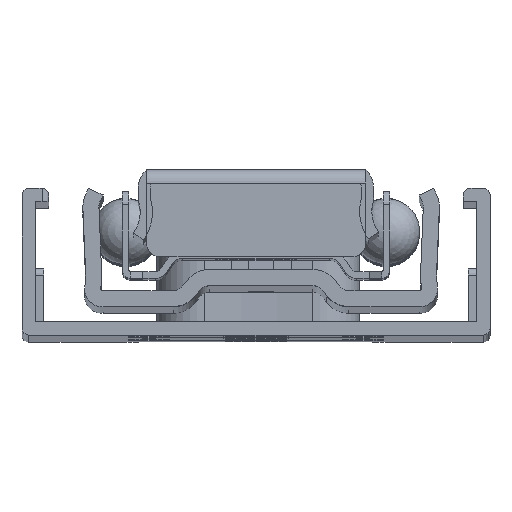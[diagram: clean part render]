
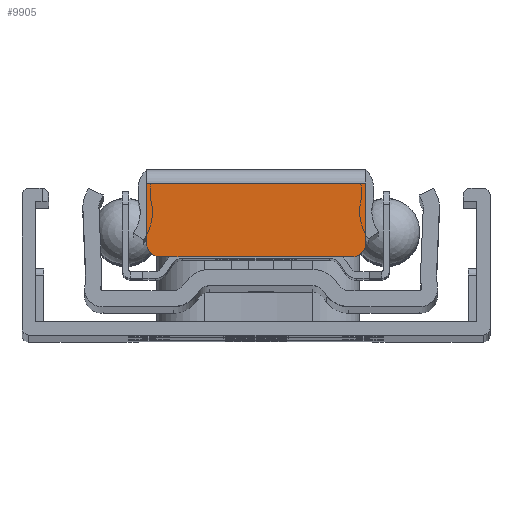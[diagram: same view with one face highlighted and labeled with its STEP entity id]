
A CAD part, top view. The second image highlights one B-rep face of the part: STEP entity #9905.
In plain terms, the highlighted planar face has unit normal (0, 0, 1).
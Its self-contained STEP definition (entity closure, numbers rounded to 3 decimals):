
#449=PLANE('',#10909);
#938=FACE_OUTER_BOUND('',#1534,.T.);
#1534=EDGE_LOOP('',(#9049,#9050,#9051,#9052,#9053,#9054));
#2484=LINE('',#16797,#3438);
#2485=LINE('',#16800,#3439);
#2486=LINE('',#16804,#3440);
#2487=LINE('',#16807,#3441);
#3438=VECTOR('',#13732,10.);
#3439=VECTOR('',#13735,10.);
#3440=VECTOR('',#13738,10.);
#3441=VECTOR('',#13741,10.);
#3927=CIRCLE('',#10910,1.);
#3928=CIRCLE('',#10911,1.);
#4867=VERTEX_POINT('',#16793);
#4868=VERTEX_POINT('',#16795);
#4869=VERTEX_POINT('',#16799);
#4870=VERTEX_POINT('',#16801);
#4871=VERTEX_POINT('',#16803);
#4872=VERTEX_POINT('',#16805);
#6280=EDGE_CURVE('',#4868,#4867,#2484,.T.);
#6281=EDGE_CURVE('',#4868,#4869,#2485,.T.);
#6282=EDGE_CURVE('',#4870,#4869,#3927,.T.);
#6283=EDGE_CURVE('',#4870,#4871,#2486,.T.);
#6284=EDGE_CURVE('',#4872,#4871,#3928,.T.);
#6285=EDGE_CURVE('',#4867,#4872,#2487,.T.);
#9049=ORIENTED_EDGE('',*,*,#6280,.F.);
#9050=ORIENTED_EDGE('',*,*,#6281,.T.);
#9051=ORIENTED_EDGE('',*,*,#6282,.F.);
#9052=ORIENTED_EDGE('',*,*,#6283,.T.);
#9053=ORIENTED_EDGE('',*,*,#6284,.F.);
#9054=ORIENTED_EDGE('',*,*,#6285,.F.);
#9905=ADVANCED_FACE('',(#938),#449,.T.);
#10909=AXIS2_PLACEMENT_3D('',#16798,#13733,#13734);
#10910=AXIS2_PLACEMENT_3D('',#16802,#13736,#13737);
#10911=AXIS2_PLACEMENT_3D('',#16806,#13739,#13740);
#13732=DIRECTION('',(-1.,0.,0.));
#13733=DIRECTION('center_axis',(0.,0.,1.));
#13734=DIRECTION('ref_axis',(1.,0.,0.));
#13735=DIRECTION('',(0.,1.,0.));
#13736=DIRECTION('center_axis',(0.,0.,-1.));
#13737=DIRECTION('ref_axis',(0.707,0.707,0.));
#13738=DIRECTION('',(-1.,0.,0.));
#13739=DIRECTION('center_axis',(0.,0.,-1.));
#13740=DIRECTION('ref_axis',(-0.707,0.707,0.));
#13741=DIRECTION('',(0.,1.,0.));
#16793=CARTESIAN_POINT('',(5.11,-4.766,299.));
#16795=CARTESIAN_POINT('',(21.512,-4.766,299.));
#16797=CARTESIAN_POINT('',(17.427,-4.766,299.));
#16798=CARTESIAN_POINT('Origin',(21.512,-5.766,299.));
#16799=CARTESIAN_POINT('',(21.512,-0.266,299.));
#16800=CARTESIAN_POINT('',(21.512,-5.766,299.));
#16801=CARTESIAN_POINT('',(20.512,0.734,299.));
#16802=CARTESIAN_POINT('Origin',(20.512,-0.266,299.));
#16803=CARTESIAN_POINT('',(6.11,0.734,299.));
#16804=CARTESIAN_POINT('',(21.512,0.734,299.));
#16805=CARTESIAN_POINT('',(5.11,-0.266,299.));
#16806=CARTESIAN_POINT('Origin',(6.11,-0.266,299.));
#16807=CARTESIAN_POINT('',(5.11,-5.766,299.));
